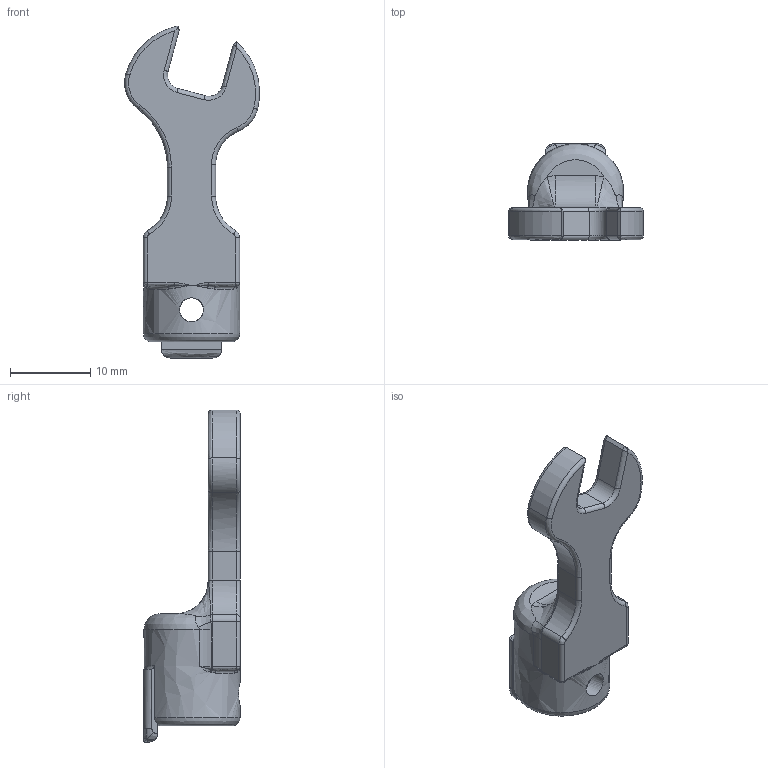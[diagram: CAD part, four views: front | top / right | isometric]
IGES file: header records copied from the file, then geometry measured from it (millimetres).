
Global section: file name: SH8DX7; native system: Autodesk Inventor 2016; preprocessor: unknown; author: Q600; date: 20151029.194400; units: millimetre
Bounding box: 16.81 x 12 x 41.39 mm (x, y, z)
Volume: 1981.6 mm3; surface area: 1729.5 mm2
Topology: 1 solids, 1 shells, 138 faces, 341 edges, 196 vertices
Faces by surface type: bspline 138
